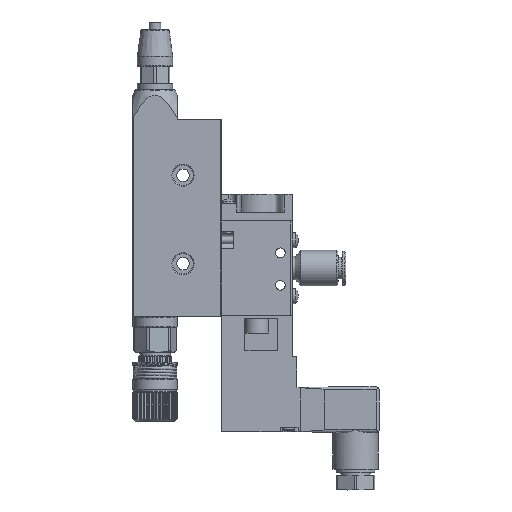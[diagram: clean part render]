
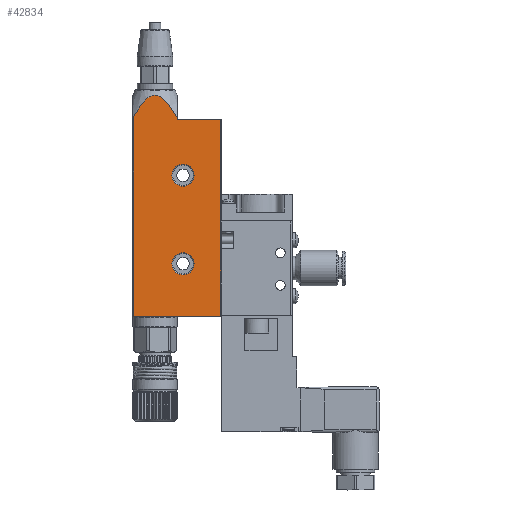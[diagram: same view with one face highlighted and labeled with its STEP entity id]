
A CAD part, left-side view. The second image highlights one B-rep face of the part: STEP entity #42834.
In plain terms, the highlighted planar face has unit normal (-1, 0, 0).
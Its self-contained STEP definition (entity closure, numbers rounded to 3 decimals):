
#179 = CARTESIAN_POINT ( 'NONE',  ( -7.5, 2.151, 35.9 ) ) ;
#215 = ORIENTED_EDGE ( 'NONE', *, *, #17521, .T. ) ;
#351 = ORIENTED_EDGE ( 'NONE', *, *, #15768, .T. ) ;
#388 = CARTESIAN_POINT ( 'NONE',  ( -7.5, -7.05, 29.743 ) ) ;
#1032 = FACE_BOUND ( 'NONE', #22660, .T. ) ;
#1125 = VERTEX_POINT ( 'NONE', #4851 ) ;
#3027 = CARTESIAN_POINT ( 'NONE',  ( -7.5, 4.853, 33.13 ) ) ;
#3369 = EDGE_LOOP ( 'NONE', ( #17089, #33675, #351, #215, #37417, #23975 ) ) ;
#3455 = CARTESIAN_POINT ( 'NONE',  ( -7.5, -6.585, 30.521 ) ) ;
#3667 = CARTESIAN_POINT ( 'NONE',  ( -7.5, -4.267, 33.857 ) ) ;
#4080 = LINE ( 'NONE', #40525, #16321 ) ;
#4707 = LINE ( 'NONE', #11731, #26536 ) ;
#4766 = CARTESIAN_POINT ( 'NONE',  ( -7.5, -9.5, -20.5 ) ) ;
#4851 = CARTESIAN_POINT ( 'NONE',  ( -7.5, -13.25, 9.5 ) ) ;
#5154 = DIRECTION ( 'NONE',  ( 0., 0., 1. ) ) ;
#6019 = CARTESIAN_POINT ( 'NONE',  ( -7.5, -22.3, 28.5 ) ) ;
#6299 = DIRECTION ( 'NONE',  ( 1., 0., 0. ) ) ;
#6490 = CARTESIAN_POINT ( 'NONE',  ( -7.5, 7.5, -38.3 ) ) ;
#6548 = CARTESIAN_POINT ( 'NONE',  ( -7.5, -7.5, 28.955 ) ) ;
#6754 = VECTOR ( 'NONE', #40485, 1000. ) ;
#6963 = CARTESIAN_POINT ( 'NONE',  ( -7.5, 7.3, 28.5 ) ) ;
#6972 = CARTESIAN_POINT ( 'NONE',  ( -7.5, -1.12, 36.445 ) ) ;
#7186 = CARTESIAN_POINT ( 'NONE',  ( -7.5, -3.978, 34.205 ) ) ;
#7830 = FACE_BOUND ( 'NONE', #36373, .T. ) ;
#8056 = DIRECTION ( 'NONE',  ( 0., 0., 1. ) ) ;
#8572 = EDGE_CURVE ( 'NONE', #18175, #32306, #4707, .T. ) ;
#9025 = CARTESIAN_POINT ( 'NONE',  ( -7.5, -22.3, -38.3 ) ) ;
#9825 = CARTESIAN_POINT ( 'NONE',  ( -7.5, -2.505, 35.64 ) ) ;
#10460 = CARTESIAN_POINT ( 'NONE',  ( -7.5, 3.691, 34.53 ) ) ;
#10666 = DIRECTION ( 'NONE',  ( 0., 0., -1. ) ) ;
#10726 = EDGE_CURVE ( 'NONE', #16494, #16494, #37826, .T. ) ;
#11004 = ORIENTED_EDGE ( 'NONE', *, *, #20035, .T. ) ;
#11731 = CARTESIAN_POINT ( 'NONE',  ( -7.5, -22.3, 28.5 ) ) ;
#12633 = LINE ( 'NONE', #6490, #39887 ) ;
#13056 = DIRECTION ( 'NONE',  ( 0., -1., 0. ) ) ;
#13121 = CARTESIAN_POINT ( 'NONE',  ( -7.5, 7.3, 29.302 ) ) ;
#13326 = CARTESIAN_POINT ( 'NONE',  ( -7.5, 0.006, 36.652 ) ) ;
#13533 = CARTESIAN_POINT ( 'NONE',  ( -7.5, -3.517, 34.707 ) ) ;
#13751 = CARTESIAN_POINT ( 'NONE',  ( -7.5, -5.61, 32.044 ) ) ;
#14534 = CIRCLE ( 'NONE', #15966, 3.75 ) ;
#15768 = EDGE_CURVE ( 'NONE', #32306, #23429, #4080, .T. ) ;
#15966 = AXIS2_PLACEMENT_3D ( 'NONE', #17216, #6299, #33660 ) ;
#16321 = VECTOR ( 'NONE', #31884, 1000. ) ;
#16418 = CARTESIAN_POINT ( 'NONE',  ( -7.5, 5.376, 32.388 ) ) ;
#16494 = VERTEX_POINT ( 'NONE', #19579 ) ;
#16839 = CARTESIAN_POINT ( 'NONE',  ( -7.5, -1.941, 36.037 ) ) ;
#17021 = B_SPLINE_CURVE_WITH_KNOTS ( 'NONE', 3,
 ( #6548, #388, #3455, #13751, #23640, #3667, #7186, #13533, #30628, #23007, #37015, #9825, #26925, #16839, #26519, #39910, #6972, #23218, #20544, #13326, #30000, #27150, #30210, #19906, #33712, #19697, #179, #40538, #17050, #10460, #33067, #3027, #16418, #36801, #29794, #13121 ),
 .UNSPECIFIED., .F., .F.,
 ( 4, 2, 2, 2, 2, 2, 2, 2, 2, 2, 2, 2, 2, 2, 2, 2, 2, 4 ),
 ( 0., 0.003, 0.005, 0.007, 0.007, 0.008, 0.009, 0.009, 0.01, 0.011, 0.012, 0.012, 0.013, 0.014, 0.015, 0.016, 0.019, 0.022 ),
 .UNSPECIFIED. ) ;
#17050 = CARTESIAN_POINT ( 'NONE',  ( -7.5, 3.047, 35.184 ) ) ;
#17089 = ORIENTED_EDGE ( 'NONE', *, *, #27065, .T. ) ;
#17216 = CARTESIAN_POINT ( 'NONE',  ( -7.5, -9.5, 9.5 ) ) ;
#17255 = LINE ( 'NONE', #6963, #20086 ) ;
#17430 = CARTESIAN_POINT ( 'NONE',  ( -7.5, -7.5, 38.5 ) ) ;
#17521 = EDGE_CURVE ( 'NONE', #23429, #36043, #40699, .T. ) ;
#17574 = CARTESIAN_POINT ( 'NONE',  ( -7.5, -7.5, 28.5 ) ) ;
#18175 = VERTEX_POINT ( 'NONE', #9025 ) ;
#18701 = CARTESIAN_POINT ( 'NONE',  ( -7.5, -7.5, 28.955 ) ) ;
#18736 = VERTEX_POINT ( 'NONE', #33498 ) ;
#18745 = EDGE_CURVE ( 'NONE', #36043, #18736, #17021, .T. ) ;
#19579 = CARTESIAN_POINT ( 'NONE',  ( -7.5, -9.5, -16.75 ) ) ;
#19697 = CARTESIAN_POINT ( 'NONE',  ( -7.5, 1.96, 36.026 ) ) ;
#19906 = CARTESIAN_POINT ( 'NONE',  ( -7.5, 1.348, 36.353 ) ) ;
#20035 = EDGE_CURVE ( 'NONE', #1125, #1125, #14534, .T. ) ;
#20086 = VECTOR ( 'NONE', #10666, 1000. ) ;
#20544 = CARTESIAN_POINT ( 'NONE',  ( -7.5, -0.453, 36.619 ) ) ;
#22231 = VERTEX_POINT ( 'NONE', #29812 ) ;
#22660 = EDGE_LOOP ( 'NONE', ( #39103 ) ) ;
#23007 = CARTESIAN_POINT ( 'NONE',  ( -7.5, -3.029, 35.19 ) ) ;
#23218 = CARTESIAN_POINT ( 'NONE',  ( -7.5, -0.683, 36.575 ) ) ;
#23429 = VERTEX_POINT ( 'NONE', #17574 ) ;
#23640 = CARTESIAN_POINT ( 'NONE',  ( -7.5, -5.1, 32.789 ) ) ;
#23975 = ORIENTED_EDGE ( 'NONE', *, *, #42742, .T. ) ;
#24946 = PLANE ( 'NONE',  #27697 ) ;
#26519 = CARTESIAN_POINT ( 'NONE',  ( -7.5, -1.742, 36.156 ) ) ;
#26536 = VECTOR ( 'NONE', #5154, 1000. ) ;
#26925 = CARTESIAN_POINT ( 'NONE',  ( -7.5, -2.322, 35.78 ) ) ;
#27065 = EDGE_CURVE ( 'NONE', #22231, #18175, #12633, .T. ) ;
#27150 = CARTESIAN_POINT ( 'NONE',  ( -7.5, 0.692, 36.573 ) ) ;
#27697 = AXIS2_PLACEMENT_3D ( 'NONE', #31719, #38108, #8056 ) ;
#29354 = AXIS2_PLACEMENT_3D ( 'NONE', #4766, #41425, #38119 ) ;
#29794 = CARTESIAN_POINT ( 'NONE',  ( -7.5, 6.843, 30.091 ) ) ;
#29812 = CARTESIAN_POINT ( 'NONE',  ( -7.5, 7.3, -38.3 ) ) ;
#30000 = CARTESIAN_POINT ( 'NONE',  ( -7.5, 0.235, 36.643 ) ) ;
#30210 = CARTESIAN_POINT ( 'NONE',  ( -7.5, 0.917, 36.513 ) ) ;
#30628 = CARTESIAN_POINT ( 'NONE',  ( -7.5, -3.358, 34.871 ) ) ;
#31719 = CARTESIAN_POINT ( 'NONE',  ( -7.5, 7.5, 28.5 ) ) ;
#31884 = DIRECTION ( 'NONE',  ( 0., 1., 0. ) ) ;
#32306 = VERTEX_POINT ( 'NONE', #6019 ) ;
#33067 = CARTESIAN_POINT ( 'NONE',  ( -7.5, 3.992, 34.187 ) ) ;
#33498 = CARTESIAN_POINT ( 'NONE',  ( -7.5, 7.3, 29.302 ) ) ;
#33660 = DIRECTION ( 'NONE',  ( 0., -1., 0. ) ) ;
#33675 = ORIENTED_EDGE ( 'NONE', *, *, #8572, .T. ) ;
#33712 = CARTESIAN_POINT ( 'NONE',  ( -7.5, 1.559, 36.253 ) ) ;
#36043 = VERTEX_POINT ( 'NONE', #18701 ) ;
#36373 = EDGE_LOOP ( 'NONE', ( #11004 ) ) ;
#36801 = CARTESIAN_POINT ( 'NONE',  ( -7.5, 6.371, 30.869 ) ) ;
#37015 = CARTESIAN_POINT ( 'NONE',  ( -7.5, -2.858, 35.346 ) ) ;
#37417 = ORIENTED_EDGE ( 'NONE', *, *, #18745, .T. ) ;
#37826 = CIRCLE ( 'NONE', #29354, 3.75 ) ;
#38108 = DIRECTION ( 'NONE',  ( -1., 0., 0. ) ) ;
#38119 = DIRECTION ( 'NONE',  ( 0., 0., 1. ) ) ;
#39103 = ORIENTED_EDGE ( 'NONE', *, *, #10726, .T. ) ;
#39887 = VECTOR ( 'NONE', #13056, 1000. ) ;
#39910 = CARTESIAN_POINT ( 'NONE',  ( -7.5, -1.331, 36.36 ) ) ;
#40485 = DIRECTION ( 'NONE',  ( 0., 0., 1. ) ) ;
#40525 = CARTESIAN_POINT ( 'NONE',  ( -7.5, 7.5, 28.5 ) ) ;
#40538 = CARTESIAN_POINT ( 'NONE',  ( -7.5, 2.704, 35.493 ) ) ;
#40699 = LINE ( 'NONE', #17430, #6754 ) ;
#41425 = DIRECTION ( 'NONE',  ( 1., 0., 0. ) ) ;
#41637 = FACE_OUTER_BOUND ( 'NONE', #3369, .T. ) ;
#42742 = EDGE_CURVE ( 'NONE', #18736, #22231, #17255, .T. ) ;
#42834 = ADVANCED_FACE ( 'NONE', ( #1032, #7830, #41637 ), #24946, .T. ) ;
